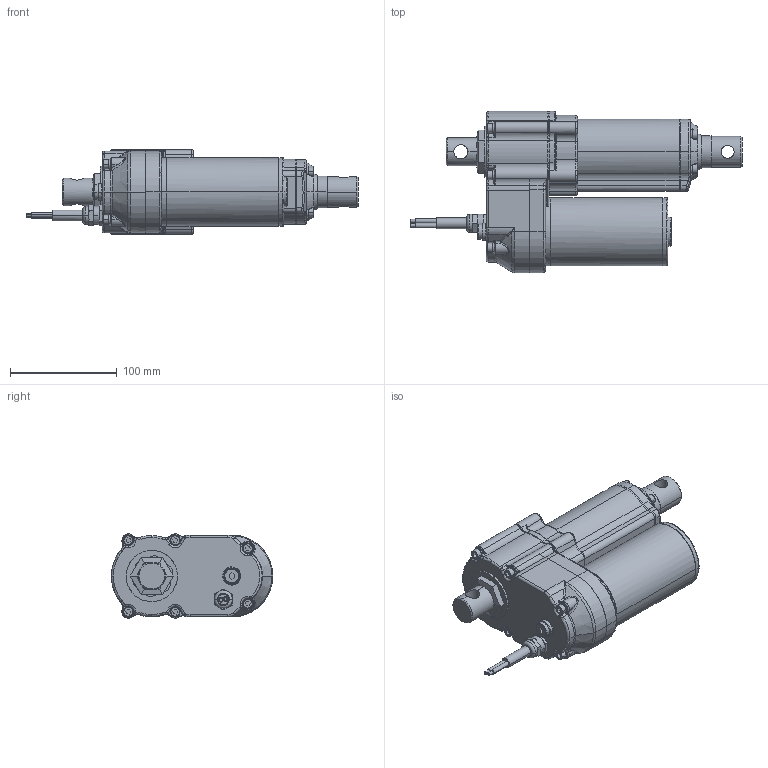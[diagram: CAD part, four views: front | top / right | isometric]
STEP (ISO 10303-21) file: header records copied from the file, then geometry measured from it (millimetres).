
FILE_DESCRIPTION(('STEP AP203'),'1');
FILE_NAME('LINACT-33P-50MM.stp','2025-11-20T12:26:24',('Linear Actuators S.A.'),('Linear Actuators South Africa (Pty) Ltd'),'Spatial InterOp 3D',' ',' ');
FILE_SCHEMA(('CONFIG_CONTROL_DESIGN'));
Length unit declared in the file: millimetre
Products named in the file (1): 1
Bounding box: 311.27 x 151.4 x 79 mm (x, y, z)
Volume: 1500375.3 mm3; surface area: 111090.6 mm2
Topology: 1 solids, 1 shells, 940 faces, 2391 edges, 1467 vertices
Faces by surface type: torus 294, plane 239, cylinder 234, bspline 105, cone 66, sphere 2
Entity records: 41074 total; most frequent: CARTESIAN_POINT 19629, ORIENTED_EDGE 4728, DIRECTION 4260, EDGE_CURVE 2364, AXIS2_PLACEMENT_3D 1786, VERTEX_POINT 1467, EDGE_LOOP 985, CIRCLE 942
